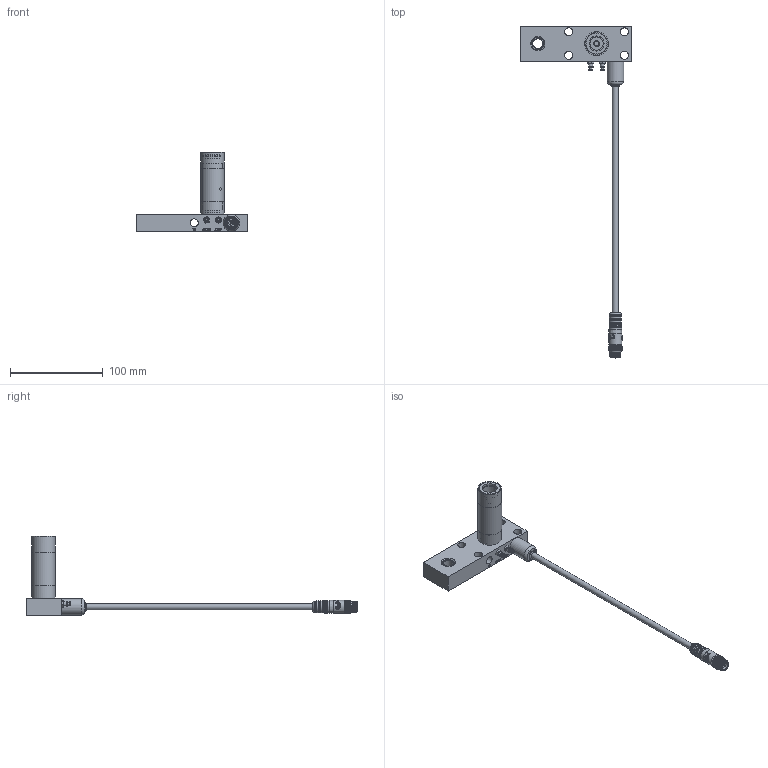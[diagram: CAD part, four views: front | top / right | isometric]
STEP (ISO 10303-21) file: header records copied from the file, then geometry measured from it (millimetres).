
FILE_DESCRIPTION(/* description */ ('ASSY,BODY,VF,IA,SXJR2,NHP_0002712627'),/* implementation_level */ '2;1');
FILE_NAME(/* name */ 'X:\ASSY,BODY,VF,IA,SXJR2,NHP_0002712627.stp',/* time_stamp */ '2021-07-07T13:01:50-04:00',/* author */ ('Simon.Britton'),/* organization */ (''),/* preprocessor_version */ 'ST-DEVELOPER v17',/* originating_system */ 'Autodesk Inventor 2019',/* authorisation */ '');
FILE_SCHEMA (('AUTOMOTIVE_DESIGN { 1 0 10303 214 3 1 1 }'));
Length unit declared in the file: centimetre
Products named in the file (1): ASSY,BODY,VF,IA,SXJR2,NHP
Bounding box: 120.65 x 358.79 x 85.72 mm (x, y, z)
Volume: 109327.6 mm3; surface area: 61591 mm2
Topology: 1 solids, 70 shells, 4067 faces, 9694 edges, 5833 vertices
Faces by surface type: bspline 2526, plane 756, cylinder 686, cone 66, torus 26, sphere 7
Full cylindrical faces by diameter (mm): 1 x5, 1.05 x5, 1.25 x10, 1.35 x5, 1.6 x10, 1.8 x5, 1.85 x5, 2 x1, 2.381 x2, 2.388 x8, 2.464 x1, 2.946 x2, 3 x1, 3.2 x1, 3.81 x2, 3.962 x6, 4.216 x4, 4.366 x1, 4.496 x2, 4.763 x2, 4.8 x3, 5.7 x1, 6.35 x4, 6.4 x1, 7 x1, 8.731 x8, 9.4 x1, 9.7 x2, 10.592 x1, 10.6 x2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
Entity records: 260337 total; most frequent: CARTESIAN_POINT 172814, ORIENTED_EDGE 19346, DIRECTION 13932, EDGE_CURVE 9673, AXIS2_PLACEMENT_3D 5876, VERTEX_POINT 5831, CIRCLE 4294, EDGE_LOOP 4269
